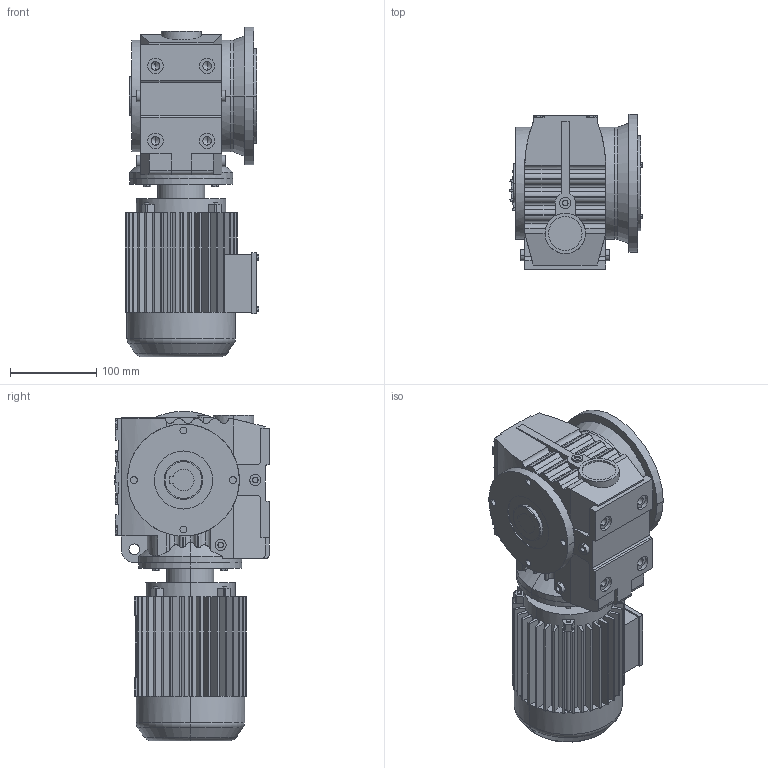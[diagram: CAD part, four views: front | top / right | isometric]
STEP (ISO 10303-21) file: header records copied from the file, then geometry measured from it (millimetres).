
FILE_DESCRIPTION(('Open CASCADE Model'),'2;1');
FILE_NAME('Open CASCADE Shape Model','2021-07-20T11:07:30',('Author'),( 'Open CASCADE'),'Open CASCADE STEP processor 6.3','Open CASCADE 6.3' ,'Unknown');
FILE_SCHEMA(('AUTOMOTIVE_DESIGN_CC2 { 1 2 10303 214 -1 1 5 4 }'));
Length unit declared in the file: millimetre
Products named in the file (5): 1_SAF47-Y63S-25-A; SA47‵97_47.step; 萇儂_120_Y63S.step; す瑩諾陑粣S_47_25.step; 楊擘S_47_160_SAF.step
Assembly tree (4 placements, depth 2):
  1_SAF47-Y63S-25-A
    SA47‵97_47.step
    萇儂_120_Y63S.step
    す瑩諾陑粣S_47_25.step
    楊擘S_47_160_SAF.step
Bounding box: 155 x 180 x 383 mm (x, y, z)
Volume: 5265953.8 mm3; surface area: 460437.5 mm2
Topology: 4 solids, 4 shells, 831 faces, 2164 edges, 1400 vertices
Faces by surface type: plane 531, cylinder 277, cone 19, torus 4
Entity records: 61031 total; most frequent: CARTESIAN_POINT 20448, DIRECTION 6875, ORIENTED_EDGE 4312, PCURVE 4312, DEFINITIONAL_REPRESENTATION 4312, LINE 3528, VECTOR 3528, EDGE_CURVE 2156
